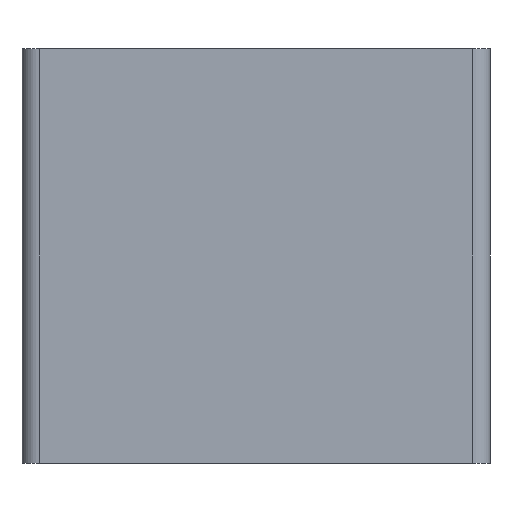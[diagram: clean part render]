
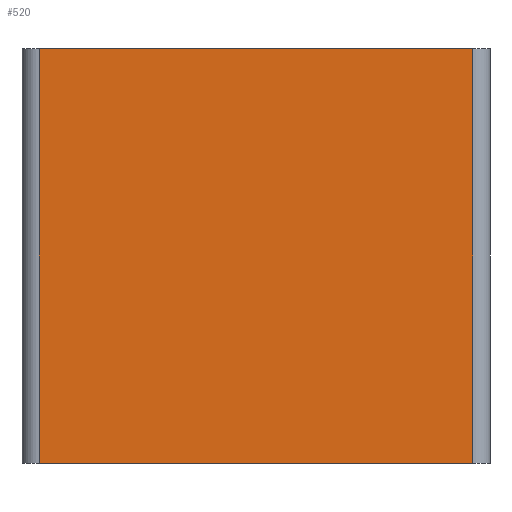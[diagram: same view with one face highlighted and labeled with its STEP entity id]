
A CAD part, left-side view. The second image highlights one B-rep face of the part: STEP entity #520.
In plain terms, the highlighted planar face has unit normal (-1, 0, 0).
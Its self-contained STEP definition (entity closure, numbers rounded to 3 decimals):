
#8 = VECTOR ( 'NONE', #486, 1000. ) ;
#38 = ORIENTED_EDGE ( 'NONE', *, *, #633, .F. ) ;
#47 = LINE ( 'NONE', #226, #230 ) ;
#82 = AXIS2_PLACEMENT_3D ( 'NONE', #168, #506, #406 ) ;
#126 = EDGE_CURVE ( 'NONE', #413, #367, #610, .T. ) ;
#139 = CARTESIAN_POINT ( 'NONE',  ( -12.7, -62.7, 0. ) ) ;
#141 = DIRECTION ( 'NONE',  ( 0., 0., 1. ) ) ;
#145 = LINE ( 'NONE', #431, #8 ) ;
#159 = VERTEX_POINT ( 'NONE', #182 ) ;
#168 = CARTESIAN_POINT ( 'NONE',  ( -12.7, 62.7, -120. ) ) ;
#182 = CARTESIAN_POINT ( 'NONE',  ( -12.7, -62.7, -120. ) ) ;
#186 = CARTESIAN_POINT ( 'NONE',  ( -12.7, 62.7, -120. ) ) ;
#213 = CARTESIAN_POINT ( 'NONE',  ( -12.7, 62.7, -120. ) ) ;
#226 = CARTESIAN_POINT ( 'NONE',  ( -12.7, -62.7, -120. ) ) ;
#230 = VECTOR ( 'NONE', #366, 1000. ) ;
#303 = VECTOR ( 'NONE', #447, 1000. ) ;
#309 = EDGE_CURVE ( 'NONE', #413, #159, #145, .T. ) ;
#344 = ORIENTED_EDGE ( 'NONE', *, *, #395, .T. ) ;
#350 = FACE_OUTER_BOUND ( 'NONE', #646, .T. ) ;
#356 = ORIENTED_EDGE ( 'NONE', *, *, #126, .F. ) ;
#366 = DIRECTION ( 'NONE',  ( 0., 0., 1. ) ) ;
#367 = VERTEX_POINT ( 'NONE', #637 ) ;
#395 = EDGE_CURVE ( 'NONE', #159, #623, #47, .T. ) ;
#397 = CARTESIAN_POINT ( 'NONE',  ( -12.7, 62.7, 0. ) ) ;
#406 = DIRECTION ( 'NONE',  ( 0., 0., 1. ) ) ;
#413 = VERTEX_POINT ( 'NONE', #213 ) ;
#431 = CARTESIAN_POINT ( 'NONE',  ( -12.7, 62.7, -120. ) ) ;
#447 = DIRECTION ( 'NONE',  ( 0., -1., 0. ) ) ;
#467 = ORIENTED_EDGE ( 'NONE', *, *, #309, .T. ) ;
#486 = DIRECTION ( 'NONE',  ( 0., -1., 0. ) ) ;
#487 = VECTOR ( 'NONE', #141, 1000. ) ;
#489 = LINE ( 'NONE', #397, #303 ) ;
#506 = DIRECTION ( 'NONE',  ( -1., 0., 0. ) ) ;
#520 = ADVANCED_FACE ( 'NONE', ( #350 ), #626, .T. ) ;
#610 = LINE ( 'NONE', #186, #487 ) ;
#623 = VERTEX_POINT ( 'NONE', #139 ) ;
#626 = PLANE ( 'NONE',  #82 ) ;
#633 = EDGE_CURVE ( 'NONE', #367, #623, #489, .T. ) ;
#637 = CARTESIAN_POINT ( 'NONE',  ( -12.7, 62.7, 0. ) ) ;
#646 = EDGE_LOOP ( 'NONE', ( #38, #356, #467, #344 ) ) ;
